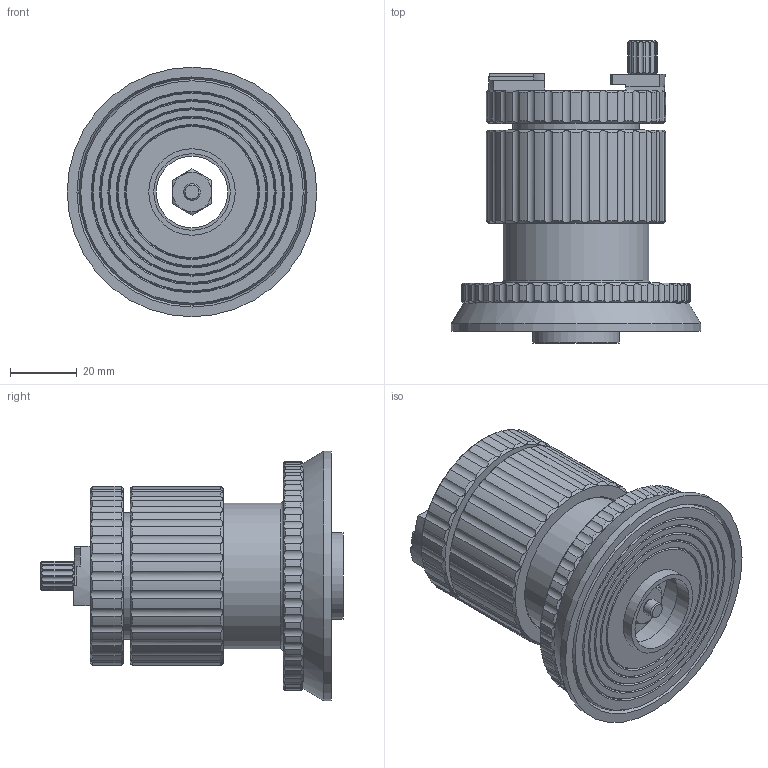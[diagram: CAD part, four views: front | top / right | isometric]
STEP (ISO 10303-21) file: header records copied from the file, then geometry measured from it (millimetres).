
FILE_DESCRIPTION(/* description */ ('Alibre Inc.'),/* implementation_level */ '2;1');
FILE_NAME(/* name */ 'export-965BB792-D5DA-4B7A-91A9-2A871B03DAF5',/* time_stamp */ '2025-02-28T10:22:39+01:00',/* author */ (''),/* organization */ (''),/* preprocessor_version */ 'ST-DEVELOPER v17',/* originating_system */ 'Alibre',/* authorisation */ '');
FILE_SCHEMA (('AUTOMOTIVE_DESIGN'));
Length unit declared in the file: millimetre
Bounding box: 75 x 90.8 x 75 mm (x, y, z)
Volume: 133549.2 mm3; surface area: 51479.1 mm2
Topology: 4 solids, 9 shells, 585 faces, 1565 edges, 1034 vertices
Faces by surface type: cylinder 294, plane 169, bspline 60, cone 52, torus 10
Full cylindrical faces by diameter (mm): 2.05 x1, 2.459 x1, 2.5 x1, 2.6 x1, 3.2 x1, 3.8 x1, 4 x1, 4.8 x1, 4.9 x1, 5 x2, 5.8 x1, 6.5 x1, 21.5 x1, 23 x1, 25 x1, 26 x1, 30.9 x1, 31 x1, 31.8 x1, 32.5 x1, 34 x2, 34.7 x1, 38 x1, 38.4 x1, 43.9 x1, 44 x1, 61.8 x1, 62.5 x1, 64 x1, 64.7 x1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
Entity records: 19170 total; most frequent: CARTESIAN_POINT 7137, ORIENTED_EDGE 2946, DIRECTION 1643, EDGE_CURVE 1469, VERTEX_POINT 1013, FACE_BOUND 715, EDGE_LOOP 714, VECTOR 617
